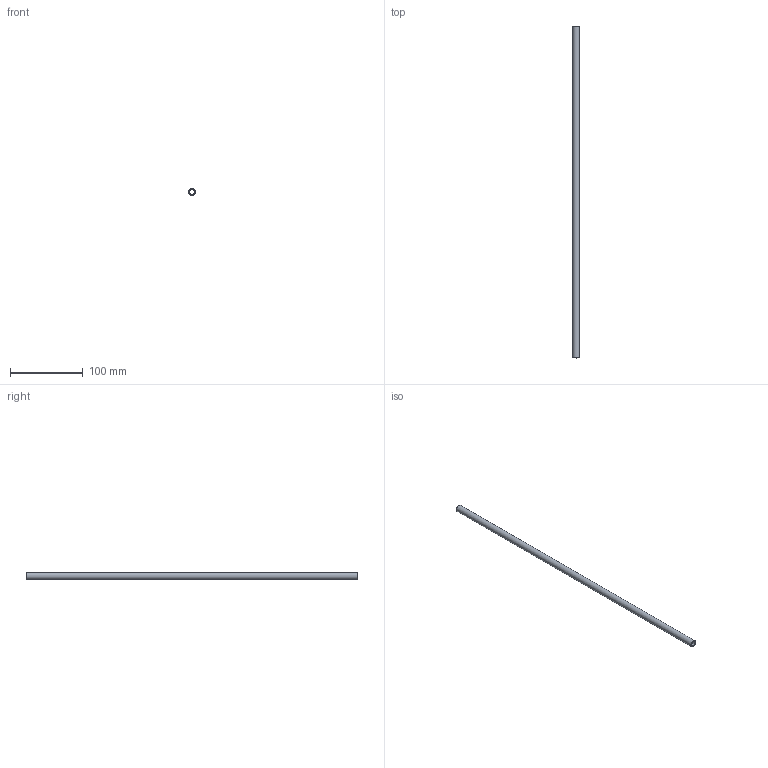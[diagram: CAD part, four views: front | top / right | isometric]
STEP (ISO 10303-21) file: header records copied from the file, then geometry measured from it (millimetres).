
FILE_DESCRIPTION(/* description */ (''),/* implementation_level */ '2;1');
FILE_NAME(/* name */ 'C:/Users/drich/Desktop/375T-18 v1.step',/* time_stamp */ '2019-12-27T17:31:33-06:00',/* author */ (''),/* organization */ (''),/* preprocessor_version */ 'ST-DEVELOPER v18',/* originating_system */ 'Autodesk Translation Framework v8.12.0.6',/* authorisation */ '');
FILE_SCHEMA (('AUTOMOTIVE_DESIGN { 1 0 10303 214 3 1 1 }'));
Length unit declared in the file: inch
Products named in the file (1): 375T-18
Bounding box: 9.41 x 457.2 x 9.41 mm (x, y, z)
Volume: 14499 mm3; surface area: 23524.3 mm2
Topology: 1 solids, 1 shells, 6 faces, 14 edges, 10 vertices
Faces by surface type: cone 2, cylinder 2, plane 2
Full cylindrical faces by diameter (mm): 6.934 x1, 9.406 x1
Entity records: 230 total; most frequent: DIRECTION 38, CARTESIAN_POINT 31, ORIENTED_EDGE 28, AXIS2_PLACEMENT_3D 17, EDGE_CURVE 14, CIRCLE 10, VERTEX_POINT 10, EDGE_LOOP 8
